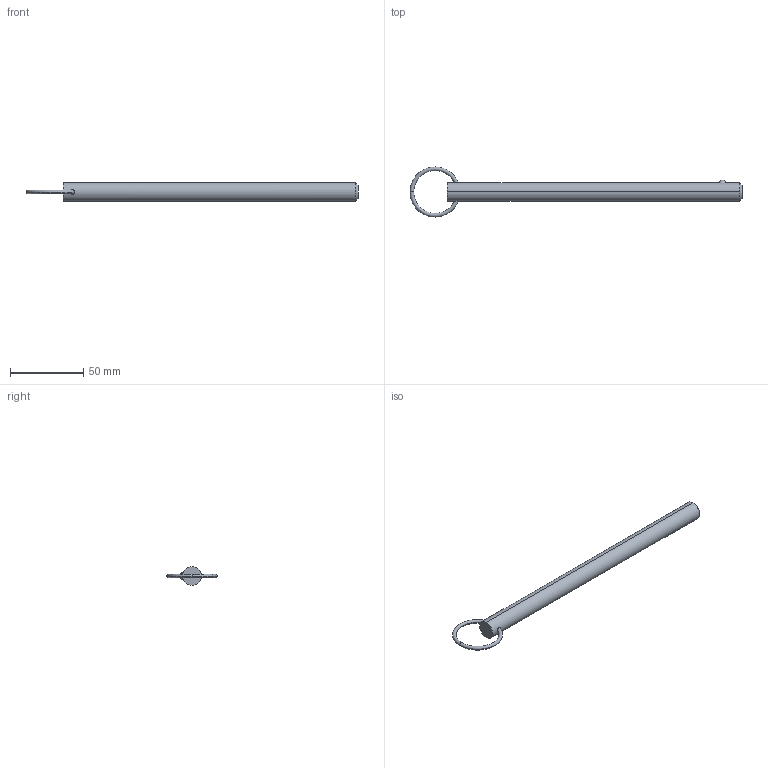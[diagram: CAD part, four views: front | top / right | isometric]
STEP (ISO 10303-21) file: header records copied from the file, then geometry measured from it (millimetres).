
FILE_DESCRIPTION (( 'STEP AP203' ), '1' );
FILE_NAME ('33012.W5070.step', '2024-11-01T14:14:21', ( '' ), ( '' ), 'SwSTEP 2.0', 'SolidWorks 2019', '' );
FILE_SCHEMA (( 'CONFIG_CONTROL_DESIGN' ));
Length unit declared in the file: millimetre
Products named in the file (3): Part1_33012.W5070; 33012.W5070; Part2_33012.W5070
Assembly tree (2 placements, depth 2):
  33012.W5070
    Part1_33012.W5070
    Part2_33012.W5070
Bounding box: 227.09 x 34.29 x 12.7 mm (x, y, z)
Volume: 25914.9 mm3; surface area: 9175.7 mm2
Topology: 2 solids, 2 shells, 16 faces, 31 edges, 18 vertices
Faces by surface type: torus 8, sphere 2, cone 2, cylinder 2, plane 2
Entity records: 885 total; most frequent: CARTESIAN_POINT 242, DIRECTION 88, ORIENTED_EDGE 62, AXIS2_PLACEMENT_3D 42, EDGE_CURVE 31, PERSON_AND_ORGANIZATION 26, CIRCLE 21, EDGE_LOOP 19
